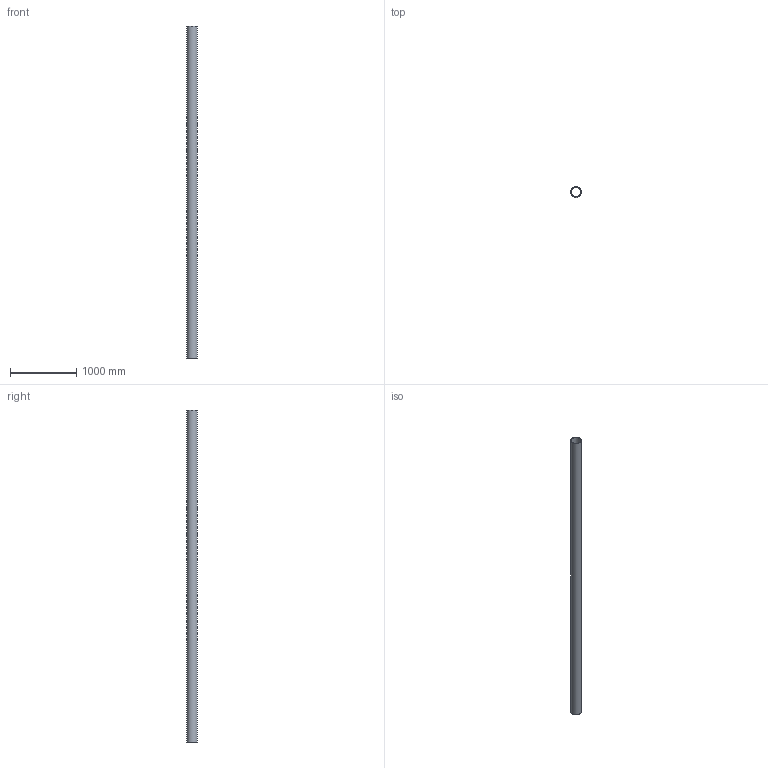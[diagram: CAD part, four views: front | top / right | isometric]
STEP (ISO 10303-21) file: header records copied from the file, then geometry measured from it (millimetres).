
FILE_DESCRIPTION(/* description */ (''),/* implementation_level */ '2;1');
FILE_NAME(/* name */ 'C:\Geberit-Teile\Export 2019\379.000.16.0\stp\369000.stp',/* time_stamp */ '2019-06-06T10:48:45+02:00',/* author */ ('JANAN'),/* organization */ (''),/* preprocessor_version */ 'ST-DEVELOPER v16.13',/* originating_system */ 'Autodesk Inventor 2018',/* authorisation */ '');
FILE_SCHEMA (('AUTOMOTIVE_DESIGN { 1 0 10303 214 3 1 1 }'));
Length unit declared in the file: millimetre
Products named in the file (1): Rohr PE-HD d160x6.2 L5000
Bounding box: 160 x 160 x 5000 mm (x, y, z)
Volume: 14978485.5 mm3; surface area: 4837760.9 mm2
Topology: 1 solids, 1 shells, 4 faces, 6 edges, 4 vertices
Faces by surface type: cylinder 2, plane 2
Full cylindrical faces by diameter (mm): 147.6 x1, 160 x1
Entity records: 131 total; most frequent: DIRECTION 18, CARTESIAN_POINT 13, AXIS2_PLACEMENT_3D 9, EDGE_LOOP 8, ORIENTED_EDGE 8, STYLED_ITEM 5, FACE_BOUND 4, FACE_OUTER_BOUND 4
